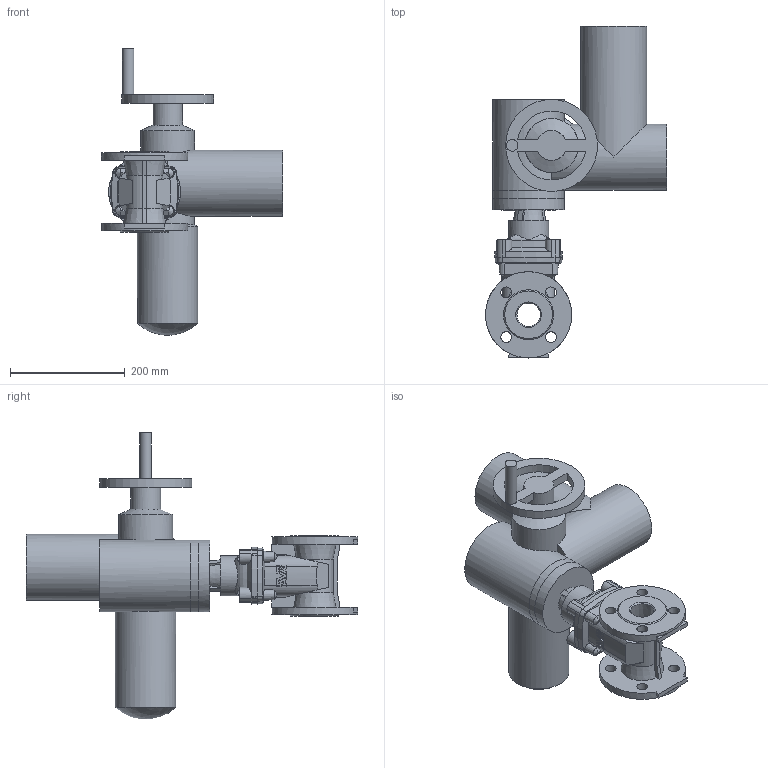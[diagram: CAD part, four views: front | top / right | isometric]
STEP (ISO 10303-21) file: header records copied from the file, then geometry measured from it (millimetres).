
FILE_DESCRIPTION (( 'STEP AP203' ), '1' );
FILE_NAME ('O_15_40_DN040_X1X_SA07.6_AA0.step', '2017-03-20T12:07:20', ( 'Windows User' ), ( 'AVK' ), 'SwSTEP 2.0', 'SolidWorks 2012', '' );
FILE_SCHEMA (( 'CONFIG_CONTROL_DESIGN' ));
Length unit declared in the file: inch
Products named in the file (1): O_15_40_DN040_X1X_SA07.6_AA0
Bounding box: 315 x 577.5 x 498.55 mm (x, y, z)
Volume: 10072942.4 mm3; surface area: 534778 mm2
Topology: 1 solids, 1 shells, 247 faces, 682 edges, 443 vertices
Faces by surface type: plane 113, cylinder 72, cone 57, torus 4, sphere 1
Full cylindrical faces by diameter (mm): 19 x8, 20 x1, 50 x1, 52.112 x1, 70 x1, 93.905 x1, 105 x1, 115 x2, 125 x3, 150 x2, 160 x1
Entity records: 8825 total; most frequent: CARTESIAN_POINT 2952, ORIENTED_EDGE 1260, DIRECTION 1136, EDGE_CURVE 630, AXIS2_PLACEMENT_3D 444, VERTEX_POINT 422, EDGE_LOOP 304, FACE_OUTER_BOUND 268
